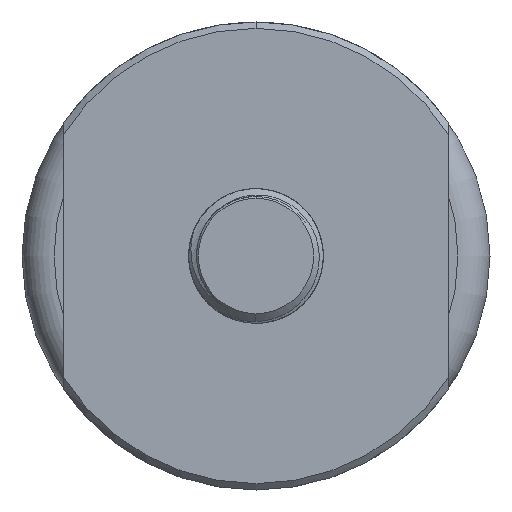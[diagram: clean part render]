
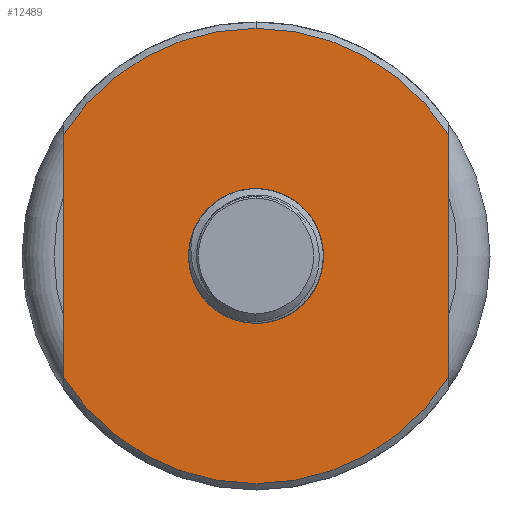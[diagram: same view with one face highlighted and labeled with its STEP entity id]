
A CAD part, front view. The second image highlights one B-rep face of the part: STEP entity #12489.
In plain terms, the highlighted planar face has unit normal (0, -1, 0).
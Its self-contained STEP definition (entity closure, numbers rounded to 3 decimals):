
#24 = EDGE_CURVE ( 'NONE', #2014, #11816, #13933, .T. ) ;
#211 = CARTESIAN_POINT ( 'NONE',  ( 0., 0., 0. ) ) ;
#291 = LINE ( 'NONE', #2638, #5665 ) ;
#633 = AXIS2_PLACEMENT_3D ( 'NONE', #2484, #2274, #2555 ) ;
#981 = VERTEX_POINT ( 'NONE', #11386 ) ;
#1054 = VECTOR ( 'NONE', #1750, 1000. ) ;
#1183 = ORIENTED_EDGE ( 'NONE', *, *, #5008, .T. ) ;
#1322 = CARTESIAN_POINT ( 'NONE',  ( -20.284, 0., -5.435 ) ) ;
#1750 = DIRECTION ( 'NONE',  ( 0., 0., 1. ) ) ;
#1926 = DIRECTION ( 'NONE',  ( 0., -1., 0. ) ) ;
#2014 = VERTEX_POINT ( 'NONE', #1322 ) ;
#2236 = CARTESIAN_POINT ( 'NONE',  ( 0., 0., 0. ) ) ;
#2274 = DIRECTION ( 'NONE',  ( 0., -1., 0. ) ) ;
#2484 = CARTESIAN_POINT ( 'NONE',  ( 0., 0., -71. ) ) ;
#2555 = DIRECTION ( 'NONE',  ( 0., 0., -1. ) ) ;
#2638 = CARTESIAN_POINT ( 'NONE',  ( -60., 0., -73. ) ) ;
#2687 = EDGE_LOOP ( 'NONE', ( #13298, #1183, #6241, #7195, #13437 ) ) ;
#2774 = DIRECTION ( 'NONE',  ( 0., -1., 0. ) ) ;
#2820 = CARTESIAN_POINT ( 'NONE',  ( 60., 0., 37.961 ) ) ;
#2824 = AXIS2_PLACEMENT_3D ( 'NONE', #8556, #2999, #5132 ) ;
#2999 = DIRECTION ( 'NONE',  ( 0., -1., 0. ) ) ;
#3081 = EDGE_CURVE ( 'NONE', #13767, #5761, #5357, .T. ) ;
#3167 = AXIS2_PLACEMENT_3D ( 'NONE', #13886, #1926, #9763 ) ;
#3700 = EDGE_CURVE ( 'NONE', #5761, #4012, #13050, .T. ) ;
#4012 = VERTEX_POINT ( 'NONE', #8811 ) ;
#4117 = PLANE ( 'NONE',  #633 ) ;
#4870 = ORIENTED_EDGE ( 'NONE', *, *, #24, .F. ) ;
#5008 = EDGE_CURVE ( 'NONE', #981, #9291, #7398, .T. ) ;
#5132 = DIRECTION ( 'NONE',  ( 0., 0., -1. ) ) ;
#5189 = FACE_BOUND ( 'NONE', #13011, .T. ) ;
#5357 = CIRCLE ( 'NONE', #2824, 71. ) ;
#5665 = VECTOR ( 'NONE', #8986, 1000. ) ;
#5761 = VERTEX_POINT ( 'NONE', #8572 ) ;
#6241 = ORIENTED_EDGE ( 'NONE', *, *, #14055, .T. ) ;
#6443 = CARTESIAN_POINT ( 'NONE',  ( 60., 0., -37.961 ) ) ;
#6495 = EDGE_CURVE ( 'NONE', #981, #4012, #291, .T. ) ;
#6774 = CARTESIAN_POINT ( 'NONE',  ( -10.5, 0., -18.187 ) ) ;
#7035 = CARTESIAN_POINT ( 'NONE',  ( 60., 0., -73. ) ) ;
#7195 = ORIENTED_EDGE ( 'NONE', *, *, #3081, .T. ) ;
#7396 = ORIENTED_EDGE ( 'NONE', *, *, #11122, .F. ) ;
#7398 = CIRCLE ( 'NONE', #8538, 71. ) ;
#7805 = AXIS2_PLACEMENT_3D ( 'NONE', #2236, #11925, #8648 ) ;
#8538 = AXIS2_PLACEMENT_3D ( 'NONE', #211, #8695, #13096 ) ;
#8556 = CARTESIAN_POINT ( 'NONE',  ( 0., 0., 0. ) ) ;
#8572 = CARTESIAN_POINT ( 'NONE',  ( 0., 0., 71. ) ) ;
#8648 = DIRECTION ( 'NONE',  ( 0., 0., -1. ) ) ;
#8695 = DIRECTION ( 'NONE',  ( 0., -1., 0. ) ) ;
#8811 = CARTESIAN_POINT ( 'NONE',  ( -60., 0., 37.961 ) ) ;
#8986 = DIRECTION ( 'NONE',  ( 0., 0., 1. ) ) ;
#9256 = CARTESIAN_POINT ( 'NONE',  ( 0., 0., 0. ) ) ;
#9291 = VERTEX_POINT ( 'NONE', #6443 ) ;
#9763 = DIRECTION ( 'NONE',  ( 0., 0., -1. ) ) ;
#10565 = AXIS2_PLACEMENT_3D ( 'NONE', #9256, #2774, #12391 ) ;
#11122 = EDGE_CURVE ( 'NONE', #11816, #2014, #11815, .T. ) ;
#11244 = LINE ( 'NONE', #7035, #1054 ) ;
#11386 = CARTESIAN_POINT ( 'NONE',  ( -60., 0., -37.961 ) ) ;
#11815 = CIRCLE ( 'NONE', #3167, 21. ) ;
#11816 = VERTEX_POINT ( 'NONE', #6774 ) ;
#11925 = DIRECTION ( 'NONE',  ( 0., -1., 0. ) ) ;
#12032 = FACE_OUTER_BOUND ( 'NONE', #2687, .T. ) ;
#12391 = DIRECTION ( 'NONE',  ( 0., 0., -1. ) ) ;
#12489 = ADVANCED_FACE ( 'NONE', ( #12032, #5189 ), #4117, .T. ) ;
#13011 = EDGE_LOOP ( 'NONE', ( #4870, #7396 ) ) ;
#13050 = CIRCLE ( 'NONE', #10565, 71. ) ;
#13096 = DIRECTION ( 'NONE',  ( 0., 0., -1. ) ) ;
#13298 = ORIENTED_EDGE ( 'NONE', *, *, #6495, .F. ) ;
#13437 = ORIENTED_EDGE ( 'NONE', *, *, #3700, .T. ) ;
#13767 = VERTEX_POINT ( 'NONE', #2820 ) ;
#13886 = CARTESIAN_POINT ( 'NONE',  ( 0., 0., 0. ) ) ;
#13933 = CIRCLE ( 'NONE', #7805, 21. ) ;
#14055 = EDGE_CURVE ( 'NONE', #9291, #13767, #11244, .T. ) ;
